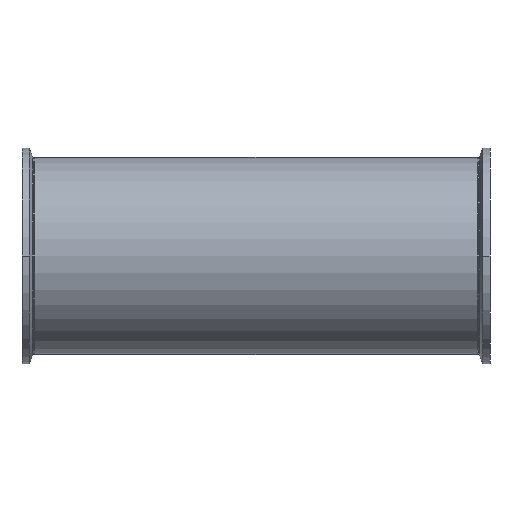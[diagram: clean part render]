
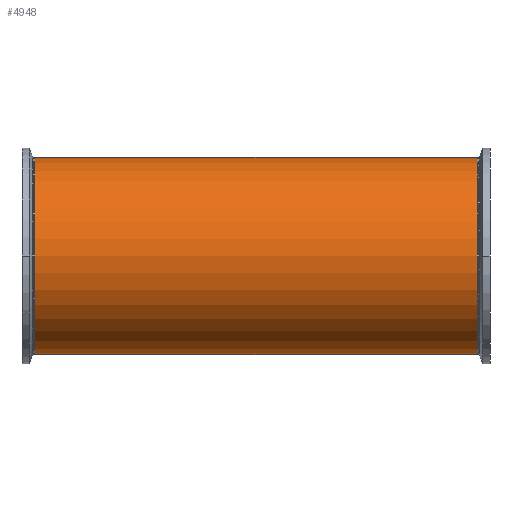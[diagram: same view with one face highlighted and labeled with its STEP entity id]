
A CAD part, front view. The second image highlights one B-rep face of the part: STEP entity #4948.
In plain terms, the highlighted cylindrical face has radius 76.2 mm (diameter 152.4 mm), a partial arc.
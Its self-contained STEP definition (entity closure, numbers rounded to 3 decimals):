
#11 = AXIS2_PLACEMENT_3D ( 'NONE', #215, #3416, #647 ) ;
#100 = CARTESIAN_POINT ( 'NONE',  ( -171., 0., 76.2 ) ) ;
#155 = VERTEX_POINT ( 'NONE', #3974 ) ;
#215 = CARTESIAN_POINT ( 'NONE',  ( 171., 0., 0. ) ) ;
#408 = VERTEX_POINT ( 'NONE', #5292 ) ;
#544 = VECTOR ( 'NONE', #2218, 1000. ) ;
#644 = ORIENTED_EDGE ( 'NONE', *, *, #1347, .T. ) ;
#647 = DIRECTION ( 'NONE',  ( 0., 0., 1. ) ) ;
#756 = AXIS2_PLACEMENT_3D ( 'NONE', #2326, #5517, #2777 ) ;
#944 = LINE ( 'NONE', #2944, #5534 ) ;
#1043 = CARTESIAN_POINT ( 'NONE',  ( 386.526, 0., 0. ) ) ;
#1347 = EDGE_CURVE ( 'NONE', #155, #3952, #4229, .T. ) ;
#1493 = DIRECTION ( 'NONE',  ( -1., 0., 0. ) ) ;
#1530 = DIRECTION ( 'NONE',  ( -1., 0., 0. ) ) ;
#1908 = ORIENTED_EDGE ( 'NONE', *, *, #4274, .F. ) ;
#2180 = CIRCLE ( 'NONE', #11, 76.2 ) ;
#2190 = CARTESIAN_POINT ( 'NONE',  ( 386.526, 0., 76.2 ) ) ;
#2218 = DIRECTION ( 'NONE',  ( -1., 0., 0. ) ) ;
#2326 = CARTESIAN_POINT ( 'NONE',  ( -171., 0., 0. ) ) ;
#2777 = DIRECTION ( 'NONE',  ( 0., 0., 1. ) ) ;
#2944 = CARTESIAN_POINT ( 'NONE',  ( 386.526, 0., -76.2 ) ) ;
#3111 = CYLINDRICAL_SURFACE ( 'NONE', #4407, 76.2 ) ;
#3170 = ORIENTED_EDGE ( 'NONE', *, *, #4244, .T. ) ;
#3176 = EDGE_LOOP ( 'NONE', ( #1908, #3170, #644, #5722 ) ) ;
#3416 = DIRECTION ( 'NONE',  ( -1., 0., 0. ) ) ;
#3952 = VERTEX_POINT ( 'NONE', #100 ) ;
#3974 = CARTESIAN_POINT ( 'NONE',  ( 171., 0., 76.2 ) ) ;
#4138 = CIRCLE ( 'NONE', #756, 76.2 ) ;
#4229 = LINE ( 'NONE', #2190, #544 ) ;
#4244 = EDGE_CURVE ( 'NONE', #5139, #155, #2180, .T. ) ;
#4274 = EDGE_CURVE ( 'NONE', #5139, #408, #944, .T. ) ;
#4407 = AXIS2_PLACEMENT_3D ( 'NONE', #1043, #1493, #4690 ) ;
#4690 = DIRECTION ( 'NONE',  ( 0., 0., 1. ) ) ;
#4782 = EDGE_CURVE ( 'NONE', #3952, #408, #4138, .T. ) ;
#4948 = ADVANCED_FACE ( 'NONE', ( #5530 ), #3111, .T. ) ;
#5139 = VERTEX_POINT ( 'NONE', #5300 ) ;
#5292 = CARTESIAN_POINT ( 'NONE',  ( -171., 0., -76.2 ) ) ;
#5300 = CARTESIAN_POINT ( 'NONE',  ( 171., 0., -76.2 ) ) ;
#5517 = DIRECTION ( 'NONE',  ( 1., 0., 0. ) ) ;
#5530 = FACE_OUTER_BOUND ( 'NONE', #3176, .T. ) ;
#5534 = VECTOR ( 'NONE', #1530, 1000. ) ;
#5722 = ORIENTED_EDGE ( 'NONE', *, *, #4782, .T. ) ;
